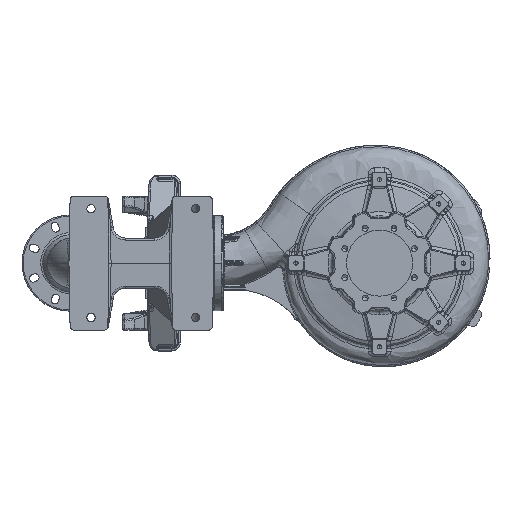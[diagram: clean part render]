
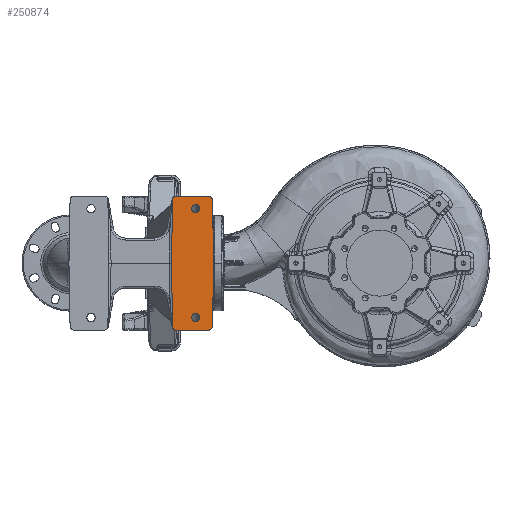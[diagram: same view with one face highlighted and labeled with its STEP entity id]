
A CAD part, front view. The second image highlights one B-rep face of the part: STEP entity #250874.
In plain terms, the highlighted planar face has unit normal (0, -1, 0).
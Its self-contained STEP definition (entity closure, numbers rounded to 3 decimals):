
#3046 = DIRECTION ( 'NONE',  ( 0., -1., 0. ) ) ;
#6372 = ORIENTED_EDGE ( 'NONE', *, *, #47579, .T. ) ;
#8503 = DIRECTION ( 'NONE',  ( 0., 0., 1. ) ) ;
#9276 = VERTEX_POINT ( 'NONE', #155249 ) ;
#9766 = PLANE ( 'NONE',  #146725 ) ;
#10642 = DIRECTION ( 'NONE',  ( 0., 0., 1. ) ) ;
#13715 = AXIS2_PLACEMENT_3D ( 'NONE', #187200, #63968, #207813 ) ;
#18652 = DIRECTION ( 'NONE',  ( 0., 0., 1. ) ) ;
#19547 = EDGE_CURVE ( 'NONE', #105556, #134464, #21835, .T. ) ;
#19815 = DIRECTION ( 'NONE',  ( 0., -1., 0. ) ) ;
#20513 = EDGE_CURVE ( 'NONE', #196444, #109441, #92106, .T. ) ;
#21835 = CIRCLE ( 'NONE', #215336, 10. ) ;
#23201 = ORIENTED_EDGE ( 'NONE', *, *, #156088, .T. ) ;
#25189 = VERTEX_POINT ( 'NONE', #60969 ) ;
#25267 = VERTEX_POINT ( 'NONE', #103114 ) ;
#28652 = CARTESIAN_POINT ( 'NONE',  ( -439.5, -659.5, 140. ) ) ;
#37191 = DIRECTION ( 'NONE',  ( 0.017, 0., 1. ) ) ;
#37340 = EDGE_CURVE ( 'NONE', #193109, #57399, #161616, .T. ) ;
#37509 = DIRECTION ( 'NONE',  ( 0., -1., 0. ) ) ;
#39076 = LINE ( 'NONE', #215164, #196676 ) ;
#39095 = CARTESIAN_POINT ( 'NONE',  ( -409.327, -659.5, -160. ) ) ;
#41587 = ORIENTED_EDGE ( 'NONE', *, *, #214144, .F. ) ;
#41978 = VERTEX_POINT ( 'NONE', #123806 ) ;
#43444 = EDGE_CURVE ( 'NONE', #25267, #156778, #110025, .T. ) ;
#46462 = CARTESIAN_POINT ( 'NONE',  ( -493.114, -659.5, -157.137 ) ) ;
#47579 = EDGE_CURVE ( 'NONE', #57399, #105556, #264752, .T. ) ;
#48469 = VERTEX_POINT ( 'NONE', #28652 ) ;
#49560 = AXIS2_PLACEMENT_3D ( 'NONE', #189993, #66734, #210563 ) ;
#50506 = EDGE_LOOP ( 'NONE', ( #194442, #41587 ) ) ;
#52945 = CIRCLE ( 'NONE', #125902, 10. ) ;
#55209 = CARTESIAN_POINT ( 'NONE',  ( -493.114, -659.5, 157.137 ) ) ;
#55705 = CARTESIAN_POINT ( 'NONE',  ( -399.328, -659.5, 150.175 ) ) ;
#57399 = VERTEX_POINT ( 'NONE', #130869 ) ;
#57813 = LINE ( 'NONE', #127100, #154230 ) ;
#58361 = DIRECTION ( 'NONE',  ( 0., -1., 0. ) ) ;
#58722 = CARTESIAN_POINT ( 'NONE',  ( -486.109, -659.5, 150. ) ) ;
#60969 = CARTESIAN_POINT ( 'NONE',  ( -494.611, -659.5, -153.656 ) ) ;
#63968 = DIRECTION ( 'NONE',  ( 0., -1., 0. ) ) ;
#65810 = EDGE_CURVE ( 'NONE', #134464, #25267, #96867, .T. ) ;
#66734 = DIRECTION ( 'NONE',  ( 0., -1., 0. ) ) ;
#67319 = CARTESIAN_POINT ( 'NONE',  ( -486.109, -659.5, -160. ) ) ;
#71184 = EDGE_LOOP ( 'NONE', ( #248215, #176682, #125623, #185878, #119228, #92936, #23201, #130399, #6372, #202413, #236946, #109112 ) ) ;
#73069 = AXIS2_PLACEMENT_3D ( 'NONE', #181583, #58361, #202220 ) ;
#75090 = CARTESIAN_POINT ( 'NONE',  ( -439.5, -659.5, -140. ) ) ;
#79371 = DIRECTION ( 'NONE',  ( 0., 0., 1. ) ) ;
#83557 = CIRCLE ( 'NONE', #125376, 10. ) ;
#92106 = CIRCLE ( 'NONE', #93201, 10. ) ;
#92936 = ORIENTED_EDGE ( 'NONE', *, *, #164828, .T. ) ;
#93201 = AXIS2_PLACEMENT_3D ( 'NONE', #264868, #141574, #18652 ) ;
#93214 = AXIS2_PLACEMENT_3D ( 'NONE', #238308, #115000, #258926 ) ;
#93418 = VERTEX_POINT ( 'NONE', #67319 ) ;
#95169 = CARTESIAN_POINT ( 'NONE',  ( -494.5, -659.5, 160. ) ) ;
#96867 = CIRCLE ( 'NONE', #101961, 5. ) ;
#97104 = VECTOR ( 'NONE', #239171, 1000. ) ;
#101961 = AXIS2_PLACEMENT_3D ( 'NONE', #254809, #131503, #8503 ) ;
#102592 = DIRECTION ( 'NONE',  ( -1., 0., 0. ) ) ;
#103114 = CARTESIAN_POINT ( 'NONE',  ( -494.611, -659.5, 153.656 ) ) ;
#104317 = LINE ( 'NONE', #160230, #213761 ) ;
#104528 = CARTESIAN_POINT ( 'NONE',  ( -399.5, -659.5, -160. ) ) ;
#105556 = VERTEX_POINT ( 'NONE', #106686 ) ;
#106389 = DIRECTION ( 'NONE',  ( -0.017, 0., 1. ) ) ;
#106686 = CARTESIAN_POINT ( 'NONE',  ( -486.109, -659.5, 160. ) ) ;
#109112 = ORIENTED_EDGE ( 'NONE', *, *, #43444, .T. ) ;
#109441 = VERTEX_POINT ( 'NONE', #246426 ) ;
#110025 = LINE ( 'NONE', #95169, #97104 ) ;
#110533 = VECTOR ( 'NONE', #207069, 1000. ) ;
#111245 = ORIENTED_EDGE ( 'NONE', *, *, #226039, .F. ) ;
#111741 = DIRECTION ( 'NONE',  ( 0.017, 0., -1. ) ) ;
#113032 = ORIENTED_EDGE ( 'NONE', *, *, #150038, .F. ) ;
#115000 = DIRECTION ( 'NONE',  ( 0., -1., 0. ) ) ;
#115110 = EDGE_LOOP ( 'NONE', ( #113032, #111245 ) ) ;
#116084 = CIRCLE ( 'NONE', #49560, 10. ) ;
#116983 = LINE ( 'NONE', #104528, #110533 ) ;
#119228 = ORIENTED_EDGE ( 'NONE', *, *, #20513, .T. ) ;
#123118 = CIRCLE ( 'NONE', #193334, 10. ) ;
#123806 = CARTESIAN_POINT ( 'NONE',  ( -439.5, -659.5, 120. ) ) ;
#123847 = EDGE_CURVE ( 'NONE', #25189, #216276, #160907, .T. ) ;
#125376 = AXIS2_PLACEMENT_3D ( 'NONE', #126063, #3046, #146702 ) ;
#125623 = ORIENTED_EDGE ( 'NONE', *, *, #184200, .T. ) ;
#125902 = AXIS2_PLACEMENT_3D ( 'NONE', #142738, #19815, #163447 ) ;
#126063 = CARTESIAN_POINT ( 'NONE',  ( -439.5, -659.5, 130. ) ) ;
#127100 = CARTESIAN_POINT ( 'NONE',  ( -396.707, -659.5, 0. ) ) ;
#130399 = ORIENTED_EDGE ( 'NONE', *, *, #37340, .T. ) ;
#130869 = CARTESIAN_POINT ( 'NONE',  ( -409.327, -659.5, 160. ) ) ;
#131503 = DIRECTION ( 'NONE',  ( 0., -1., 0. ) ) ;
#133655 = DIRECTION ( 'NONE',  ( 0., 1., 0. ) ) ;
#134464 = VERTEX_POINT ( 'NONE', #55209 ) ;
#141574 = DIRECTION ( 'NONE',  ( 0., -1., 0. ) ) ;
#142738 = CARTESIAN_POINT ( 'NONE',  ( -486.109, -659.5, -150. ) ) ;
#146278 = EDGE_CURVE ( 'NONE', #156778, #25189, #39076, .T. ) ;
#146702 = DIRECTION ( 'NONE',  ( 0., 0., -1. ) ) ;
#146725 = AXIS2_PLACEMENT_3D ( 'NONE', #256934, #133655, #10642 ) ;
#150038 = EDGE_CURVE ( 'NONE', #256903, #9276, #123118, .T. ) ;
#152113 = FACE_BOUND ( 'NONE', #115110, .T. ) ;
#154230 = VECTOR ( 'NONE', #106389, 1000. ) ;
#155234 = VECTOR ( 'NONE', #102592, 1000. ) ;
#155249 = CARTESIAN_POINT ( 'NONE',  ( -439.5, -659.5, -120. ) ) ;
#156088 = EDGE_CURVE ( 'NONE', #157619, #193109, #57813, .T. ) ;
#156778 = VERTEX_POINT ( 'NONE', #254192 ) ;
#157619 = VERTEX_POINT ( 'NONE', #250479 ) ;
#159001 = CIRCLE ( 'NONE', #93214, 10. ) ;
#160230 = CARTESIAN_POINT ( 'NONE',  ( -399.5, -659.5, -160. ) ) ;
#160573 = CARTESIAN_POINT ( 'NONE',  ( -439.5, -659.5, -130. ) ) ;
#160907 = CIRCLE ( 'NONE', #13715, 5. ) ;
#161616 = CIRCLE ( 'NONE', #73069, 10. ) ;
#163447 = DIRECTION ( 'NONE',  ( 0., 0., 1. ) ) ;
#164828 = EDGE_CURVE ( 'NONE', #109441, #157619, #104317, .T. ) ;
#176682 = ORIENTED_EDGE ( 'NONE', *, *, #123847, .T. ) ;
#181353 = DIRECTION ( 'NONE',  ( 0., 0., -1. ) ) ;
#181583 = CARTESIAN_POINT ( 'NONE',  ( -409.327, -659.5, 150. ) ) ;
#184200 = EDGE_CURVE ( 'NONE', #216276, #93418, #52945, .T. ) ;
#185878 = ORIENTED_EDGE ( 'NONE', *, *, #235845, .T. ) ;
#187200 = CARTESIAN_POINT ( 'NONE',  ( -489.612, -659.5, -153.568 ) ) ;
#189993 = CARTESIAN_POINT ( 'NONE',  ( -439.5, -659.5, -130. ) ) ;
#193109 = VERTEX_POINT ( 'NONE', #55705 ) ;
#193334 = AXIS2_PLACEMENT_3D ( 'NONE', #160573, #37509, #181353 ) ;
#194442 = ORIENTED_EDGE ( 'NONE', *, *, #220656, .F. ) ;
#196444 = VERTEX_POINT ( 'NONE', #39095 ) ;
#196676 = VECTOR ( 'NONE', #111741, 1000. ) ;
#202220 = DIRECTION ( 'NONE',  ( 0., 0., 1. ) ) ;
#202413 = ORIENTED_EDGE ( 'NONE', *, *, #19547, .T. ) ;
#202547 = DIRECTION ( 'NONE',  ( 0., -1., 0. ) ) ;
#206832 = FACE_BOUND ( 'NONE', #50506, .T. ) ;
#207069 = DIRECTION ( 'NONE',  ( 1., 0., 0. ) ) ;
#207813 = DIRECTION ( 'NONE',  ( 0., 0., 1. ) ) ;
#210563 = DIRECTION ( 'NONE',  ( 0., 0., -1. ) ) ;
#213761 = VECTOR ( 'NONE', #37191, 1000. ) ;
#214144 = EDGE_CURVE ( 'NONE', #48469, #41978, #159001, .T. ) ;
#215164 = CARTESIAN_POINT ( 'NONE',  ( -494.5, -659.5, -160. ) ) ;
#215336 = AXIS2_PLACEMENT_3D ( 'NONE', #58722, #202547, #79371 ) ;
#216276 = VERTEX_POINT ( 'NONE', #46462 ) ;
#220656 = EDGE_CURVE ( 'NONE', #41978, #48469, #83557, .T. ) ;
#225858 = CARTESIAN_POINT ( 'NONE',  ( -399.5, -659.5, 160. ) ) ;
#226039 = EDGE_CURVE ( 'NONE', #9276, #256903, #116084, .T. ) ;
#235845 = EDGE_CURVE ( 'NONE', #93418, #196444, #116983, .T. ) ;
#236946 = ORIENTED_EDGE ( 'NONE', *, *, #65810, .T. ) ;
#238308 = CARTESIAN_POINT ( 'NONE',  ( -439.5, -659.5, 130. ) ) ;
#239171 = DIRECTION ( 'NONE',  ( -0.017, 0., -1. ) ) ;
#246426 = CARTESIAN_POINT ( 'NONE',  ( -399.328, -659.5, -150.175 ) ) ;
#248215 = ORIENTED_EDGE ( 'NONE', *, *, #146278, .T. ) ;
#250479 = CARTESIAN_POINT ( 'NONE',  ( -396.707, -659.5, 0. ) ) ;
#250874 = ADVANCED_FACE ( 'NONE', ( #261648, #152113, #206832 ), #9766, .F. ) ;
#254192 = CARTESIAN_POINT ( 'NONE',  ( -497.293, -659.5, 0. ) ) ;
#254809 = CARTESIAN_POINT ( 'NONE',  ( -489.612, -659.5, 153.568 ) ) ;
#256903 = VERTEX_POINT ( 'NONE', #75090 ) ;
#256934 = CARTESIAN_POINT ( 'NONE',  ( -500.086, -659.5, -160. ) ) ;
#258926 = DIRECTION ( 'NONE',  ( 0., 0., -1. ) ) ;
#261648 = FACE_OUTER_BOUND ( 'NONE', #71184, .T. ) ;
#264752 = LINE ( 'NONE', #225858, #155234 ) ;
#264868 = CARTESIAN_POINT ( 'NONE',  ( -409.327, -659.5, -150. ) ) ;
